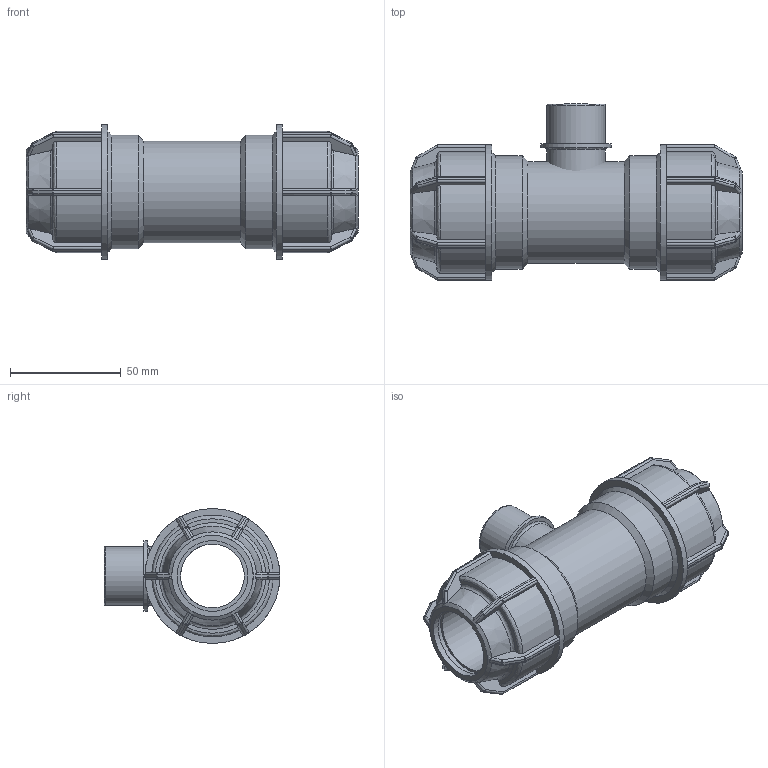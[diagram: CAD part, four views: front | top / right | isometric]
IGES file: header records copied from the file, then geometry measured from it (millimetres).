
Global section: file name: 148400032007.ipt; native system: Autodesk Inventor 2015; preprocessor: unknown; author: KIM; date: 20180409.131231; units: millimetre
Bounding box: 150 x 79.5 x 61 mm (x, y, z)
Volume: 180111.8 mm3; surface area: 52382.1 mm2
Topology: 2 solids, 2 shells, 412 faces, 997 edges, 582 vertices
Faces by surface type: plane 194, cylinder 116, sphere 48, revolution 38, cone 16
Full cylindrical faces by diameter (mm): 26.441 x2, 31.729 x1, 46.08 x1, 51.2 x2, 61 x2
